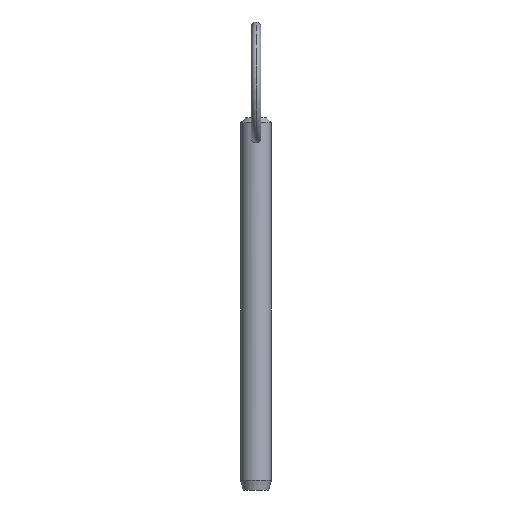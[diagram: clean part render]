
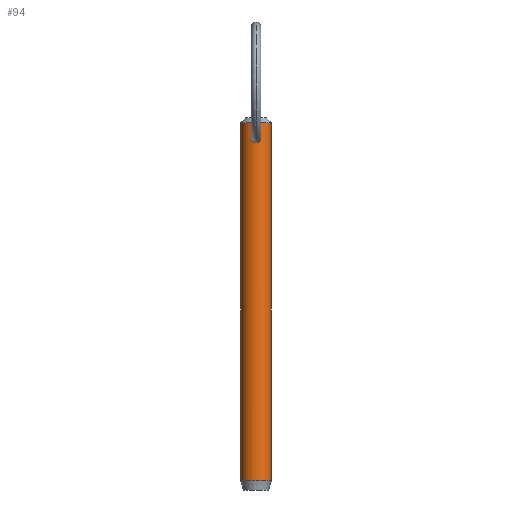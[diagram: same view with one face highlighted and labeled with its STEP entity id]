
A CAD part, front view. The second image highlights one B-rep face of the part: STEP entity #94.
In plain terms, the highlighted cylindrical face has radius 3.175 mm (diameter 6.35 mm), a partial arc.
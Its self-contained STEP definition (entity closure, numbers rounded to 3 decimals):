
#3 = CARTESIAN_POINT ( 'NONE',  ( 0.51, -3.136, 65.834 ) ) ;
#12 = CARTESIAN_POINT ( 'NONE',  ( 0.815, -3.07, 64.295 ) ) ;
#13 = VERTEX_POINT ( 'NONE', #235 ) ;
#27 = B_SPLINE_CURVE_WITH_KNOTS ( 'NONE', 3,
 ( #232, #108, #223, #146, #407, #186, #479, #272, #33, #230, #30, #310, #409, #187, #226, #481, #150, #413 ),
 .UNSPECIFIED., .F., .F.,
 ( 4, 2, 2, 2, 2, 2, 2, 2, 4 ),
 ( 0.006, 0.006, 0.007, 0.007, 0.008, 0.008, 0.009, 0.009, 0.009 ),
 .UNSPECIFIED. ) ;
#30 = CARTESIAN_POINT ( 'NONE',  ( -0.882, -3.055, 65.46 ) ) ;
#32 = CARTESIAN_POINT ( 'NONE',  ( 0., -3.175, 63.903 ) ) ;
#33 = CARTESIAN_POINT ( 'NONE',  ( -1.004, -3.012, 64.795 ) ) ;
#43 = DIRECTION ( 'NONE',  ( 0., 0., -1. ) ) ;
#45 = DIRECTION ( 'NONE',  ( 0., 0., 1. ) ) ;
#56 = EDGE_CURVE ( 'NONE', #359, #441, #27, .T. ) ;
#58 = LINE ( 'NONE', #287, #321 ) ;
#61 = EDGE_CURVE ( 'NONE', #90, #467, #207, .T. ) ;
#65 = B_SPLINE_CURVE_WITH_KNOTS ( 'NONE', 3,
 ( #460, #425, #237, #3, #164, #83, #455, #349, #463, #284, #12, #116, #379, #122, #288, #381 ),
 .UNSPECIFIED., .F., .F.,
 ( 4, 2, 2, 2, 2, 2, 2, 4 ),
 ( 0.003, 0.003, 0.004, 0.004, 0.005, 0.005, 0.006, 0.006 ),
 .UNSPECIFIED. ) ;
#76 = CARTESIAN_POINT ( 'NONE',  ( -3.175, 0., -5.92 ) ) ;
#78 = DIRECTION ( 'NONE',  ( -1., 0., 0. ) ) ;
#80 = CARTESIAN_POINT ( 'NONE',  ( 0., 0., 68.08 ) ) ;
#83 = CARTESIAN_POINT ( 'NONE',  ( 0.884, -3.055, 65.457 ) ) ;
#84 = DIRECTION ( 'NONE',  ( 0., 0., -1. ) ) ;
#85 = CARTESIAN_POINT ( 'NONE',  ( 0., 0., 63.5 ) ) ;
#90 = VERTEX_POINT ( 'NONE', #76 ) ;
#94 = ADVANCED_FACE ( 'NONE', ( #140, #286 ), #262, .T. ) ;
#101 = ORIENTED_EDGE ( 'NONE', *, *, #56, .T. ) ;
#102 = EDGE_CURVE ( 'NONE', #441, #359, #65, .T. ) ;
#106 = VECTOR ( 'NONE', #84, 1000. ) ;
#108 = CARTESIAN_POINT ( 'NONE',  ( -0.134, -3.175, 63.903 ) ) ;
#114 = EDGE_CURVE ( 'NONE', #209, #13, #333, .T. ) ;
#116 = CARTESIAN_POINT ( 'NONE',  ( 0.628, -3.114, 64.104 ) ) ;
#122 = CARTESIAN_POINT ( 'NONE',  ( 0.268, -3.166, 63.929 ) ) ;
#140 = FACE_OUTER_BOUND ( 'NONE', #364, .T. ) ;
#144 = ORIENTED_EDGE ( 'NONE', *, *, #114, .T. ) ;
#146 = CARTESIAN_POINT ( 'NONE',  ( -0.516, -3.135, 64.031 ) ) ;
#150 = CARTESIAN_POINT ( 'NONE',  ( -0.067, -3.175, 65.982 ) ) ;
#164 = CARTESIAN_POINT ( 'NONE',  ( 0.617, -3.116, 65.751 ) ) ;
#175 = AXIS2_PLACEMENT_3D ( 'NONE', #80, #419, #429 ) ;
#186 = CARTESIAN_POINT ( 'NONE',  ( -0.815, -3.07, 64.295 ) ) ;
#187 = CARTESIAN_POINT ( 'NONE',  ( -0.328, -3.159, 65.921 ) ) ;
#190 = EDGE_LOOP ( 'NONE', ( #367, #101 ) ) ;
#198 = DIRECTION ( 'NONE',  ( 0., 0., -1. ) ) ;
#205 = AXIS2_PLACEMENT_3D ( 'NONE', #85, #198, #352 ) ;
#206 = CARTESIAN_POINT ( 'NONE',  ( 0., -3.175, 65.982 ) ) ;
#207 = CIRCLE ( 'NONE', #221, 3.175 ) ;
#209 = VERTEX_POINT ( 'NONE', #255 ) ;
#221 = AXIS2_PLACEMENT_3D ( 'NONE', #245, #45, #78 ) ;
#223 = CARTESIAN_POINT ( 'NONE',  ( -0.269, -3.166, 63.929 ) ) ;
#226 = CARTESIAN_POINT ( 'NONE',  ( -0.264, -3.165, 65.944 ) ) ;
#230 = CARTESIAN_POINT ( 'NONE',  ( -0.991, -3.016, 65.196 ) ) ;
#232 = CARTESIAN_POINT ( 'NONE',  ( 0., -3.175, 63.903 ) ) ;
#235 = CARTESIAN_POINT ( 'NONE',  ( -3.175, 0., 68.08 ) ) ;
#237 = CARTESIAN_POINT ( 'NONE',  ( 0.269, -3.166, 65.95 ) ) ;
#245 = CARTESIAN_POINT ( 'NONE',  ( 0., 0., -5.92 ) ) ;
#255 = CARTESIAN_POINT ( 'NONE',  ( 3.175, 0., 68.08 ) ) ;
#258 = ORIENTED_EDGE ( 'NONE', *, *, #61, .T. ) ;
#262 = CYLINDRICAL_SURFACE ( 'NONE', #205, 3.175 ) ;
#272 = CARTESIAN_POINT ( 'NONE',  ( -0.983, -3.02, 64.659 ) ) ;
#284 = CARTESIAN_POINT ( 'NONE',  ( 0.888, -3.049, 64.409 ) ) ;
#286 = FACE_BOUND ( 'NONE', #190, .T. ) ;
#287 = CARTESIAN_POINT ( 'NONE',  ( 3.175, 0., 63.5 ) ) ;
#288 = CARTESIAN_POINT ( 'NONE',  ( 0.134, -3.175, 63.903 ) ) ;
#303 = ORIENTED_EDGE ( 'NONE', *, *, #404, .F. ) ;
#308 = ORIENTED_EDGE ( 'NONE', *, *, #448, .T. ) ;
#310 = CARTESIAN_POINT ( 'NONE',  ( -0.615, -3.116, 65.753 ) ) ;
#320 = CARTESIAN_POINT ( 'NONE',  ( -3.175, 0., 63.5 ) ) ;
#321 = VECTOR ( 'NONE', #43, 1000. ) ;
#333 = CIRCLE ( 'NONE', #175, 3.175 ) ;
#349 = CARTESIAN_POINT ( 'NONE',  ( 1.004, -3.012, 64.793 ) ) ;
#352 = DIRECTION ( 'NONE',  ( -1., 0., 0. ) ) ;
#359 = VERTEX_POINT ( 'NONE', #32 ) ;
#364 = EDGE_LOOP ( 'NONE', ( #303, #144, #308, #258 ) ) ;
#367 = ORIENTED_EDGE ( 'NONE', *, *, #102, .T. ) ;
#372 = LINE ( 'NONE', #320, #106 ) ;
#379 = CARTESIAN_POINT ( 'NONE',  ( 0.515, -3.135, 64.03 ) ) ;
#381 = CARTESIAN_POINT ( 'NONE',  ( 0., -3.175, 63.903 ) ) ;
#404 = EDGE_CURVE ( 'NONE', #209, #467, #58, .T. ) ;
#407 = CARTESIAN_POINT ( 'NONE',  ( -0.629, -3.114, 64.105 ) ) ;
#409 = CARTESIAN_POINT ( 'NONE',  ( -0.508, -3.136, 65.835 ) ) ;
#413 = CARTESIAN_POINT ( 'NONE',  ( 0., -3.175, 65.982 ) ) ;
#419 = DIRECTION ( 'NONE',  ( 0., 0., -1. ) ) ;
#425 = CARTESIAN_POINT ( 'NONE',  ( 0.134, -3.175, 65.982 ) ) ;
#429 = DIRECTION ( 'NONE',  ( 1., 0., 0. ) ) ;
#434 = CARTESIAN_POINT ( 'NONE',  ( 3.175, 0., -5.92 ) ) ;
#441 = VERTEX_POINT ( 'NONE', #206 ) ;
#448 = EDGE_CURVE ( 'NONE', #13, #90, #372, .T. ) ;
#455 = CARTESIAN_POINT ( 'NONE',  ( 0.992, -3.016, 65.194 ) ) ;
#460 = CARTESIAN_POINT ( 'NONE',  ( 0., -3.175, 65.982 ) ) ;
#463 = CARTESIAN_POINT ( 'NONE',  ( 0.982, -3.02, 64.658 ) ) ;
#467 = VERTEX_POINT ( 'NONE', #434 ) ;
#479 = CARTESIAN_POINT ( 'NONE',  ( -0.888, -3.049, 64.409 ) ) ;
#481 = CARTESIAN_POINT ( 'NONE',  ( -0.133, -3.173, 65.974 ) ) ;
